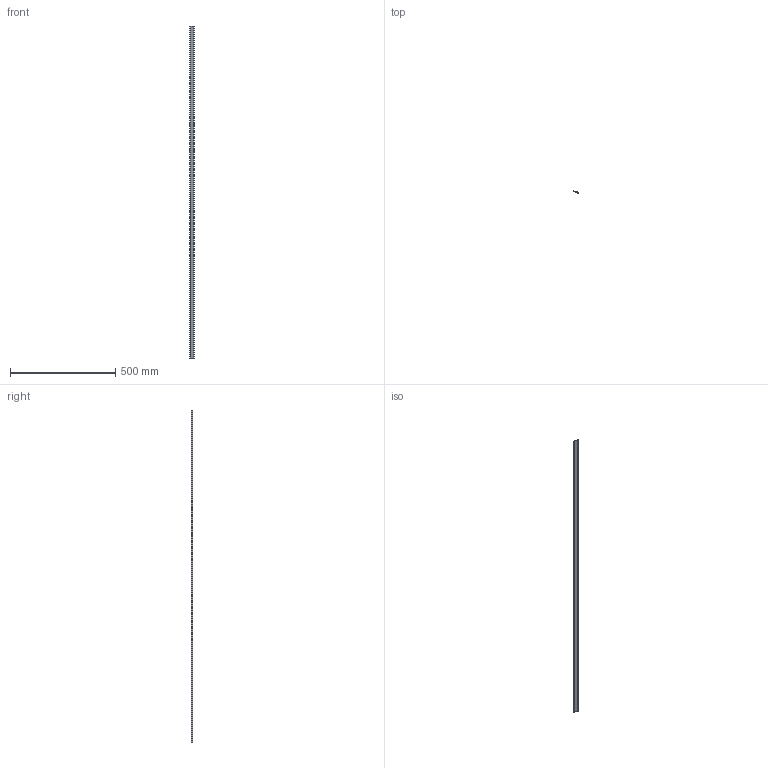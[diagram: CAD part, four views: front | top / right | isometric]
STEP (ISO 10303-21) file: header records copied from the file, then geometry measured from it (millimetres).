
FILE_DESCRIPTION (( 'STEP AP203' ), '1' );
FILE_NAME ('CVR-000651-00 REV A.STEP', '2020-11-18T18:00:21', ( '' ), ( '' ), 'SwSTEP 2.0', 'SolidWorks 2020', '' );
FILE_SCHEMA (( 'CONFIG_CONTROL_DESIGN' ));
Length unit declared in the file: millimetre
Products named in the file (1): CVR-000651-00 REV A
Bounding box: 23.66 x 8.36 x 1574.8 mm (x, y, z)
Volume: 42671 mm3; surface area: 89025.2 mm2
Topology: 1 solids, 1 shells, 29 faces, 78 edges, 51 vertices
Faces by surface type: plane 16, cylinder 13
Entity records: 993 total; most frequent: CARTESIAN_POINT 169, DIRECTION 158, ORIENTED_EDGE 156, EDGE_CURVE 78, LINE 54, VECTOR 54, AXIS2_PLACEMENT_3D 52, VERTEX_POINT 51
